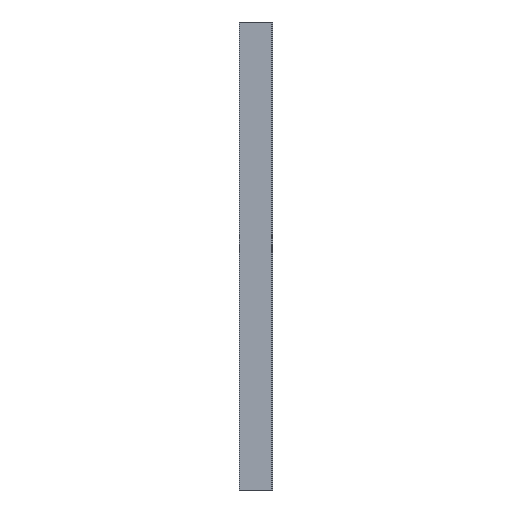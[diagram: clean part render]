
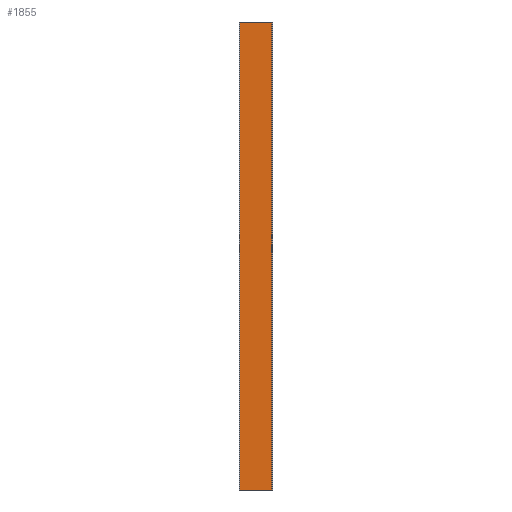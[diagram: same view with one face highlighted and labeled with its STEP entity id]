
A CAD part, left-side view. The second image highlights one B-rep face of the part: STEP entity #1855.
In plain terms, the highlighted planar face has unit normal (-1, 0, 0).
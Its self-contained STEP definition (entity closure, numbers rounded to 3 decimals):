
#85 = DIRECTION ( 'NONE',  ( 0., -1., 0. ) ) ;
#174 = VERTEX_POINT ( 'NONE', #908 ) ;
#252 = DIRECTION ( 'NONE',  ( 0., 0., 1. ) ) ;
#273 = CARTESIAN_POINT ( 'NONE',  ( -23.5, 79.5, -1136. ) ) ;
#407 = PLANE ( 'NONE',  #737 ) ;
#499 = VECTOR ( 'NONE', #85, 1000. ) ;
#514 = EDGE_CURVE ( 'NONE', #1341, #174, #1259, .T. ) ;
#516 = CARTESIAN_POINT ( 'NONE',  ( -23.5, 1.8, 0. ) ) ;
#549 = LINE ( 'NONE', #863, #726 ) ;
#594 = VERTEX_POINT ( 'NONE', #1425 ) ;
#701 = DIRECTION ( 'NONE',  ( 0., 0., 1. ) ) ;
#726 = VECTOR ( 'NONE', #701, 1000. ) ;
#737 = AXIS2_PLACEMENT_3D ( 'NONE', #1508, #1644, #793 ) ;
#793 = DIRECTION ( 'NONE',  ( 0., 0., 1. ) ) ;
#863 = CARTESIAN_POINT ( 'NONE',  ( -23.5, 1.8, -1136. ) ) ;
#875 = CARTESIAN_POINT ( 'NONE',  ( -23.5, 79.5, 0. ) ) ;
#895 = EDGE_LOOP ( 'NONE', ( #1104, #1297, #1271, #1110 ) ) ;
#908 = CARTESIAN_POINT ( 'NONE',  ( -23.5, 1.8, 0. ) ) ;
#946 = FACE_OUTER_BOUND ( 'NONE', #895, .T. ) ;
#977 = CARTESIAN_POINT ( 'NONE',  ( -23.5, 1.8, -1136. ) ) ;
#988 = VERTEX_POINT ( 'NONE', #1096 ) ;
#1013 = VECTOR ( 'NONE', #1255, 1000. ) ;
#1096 = CARTESIAN_POINT ( 'NONE',  ( -23.5, 1.8, -1136. ) ) ;
#1104 = ORIENTED_EDGE ( 'NONE', *, *, #514, .F. ) ;
#1110 = ORIENTED_EDGE ( 'NONE', *, *, #1380, .T. ) ;
#1128 = VECTOR ( 'NONE', #252, 1000. ) ;
#1255 = DIRECTION ( 'NONE',  ( 0., -1., 0. ) ) ;
#1259 = LINE ( 'NONE', #516, #1013 ) ;
#1271 = ORIENTED_EDGE ( 'NONE', *, *, #1665, .T. ) ;
#1297 = ORIENTED_EDGE ( 'NONE', *, *, #1757, .F. ) ;
#1341 = VERTEX_POINT ( 'NONE', #875 ) ;
#1380 = EDGE_CURVE ( 'NONE', #988, #174, #549, .T. ) ;
#1425 = CARTESIAN_POINT ( 'NONE',  ( -23.5, 79.5, -1136. ) ) ;
#1508 = CARTESIAN_POINT ( 'NONE',  ( -23.5, 1.8, -1136. ) ) ;
#1576 = LINE ( 'NONE', #977, #499 ) ;
#1616 = LINE ( 'NONE', #273, #1128 ) ;
#1644 = DIRECTION ( 'NONE',  ( -1., 0., 0. ) ) ;
#1665 = EDGE_CURVE ( 'NONE', #594, #988, #1576, .T. ) ;
#1757 = EDGE_CURVE ( 'NONE', #594, #1341, #1616, .T. ) ;
#1855 = ADVANCED_FACE ( 'NONE', ( #946 ), #407, .T. ) ;
